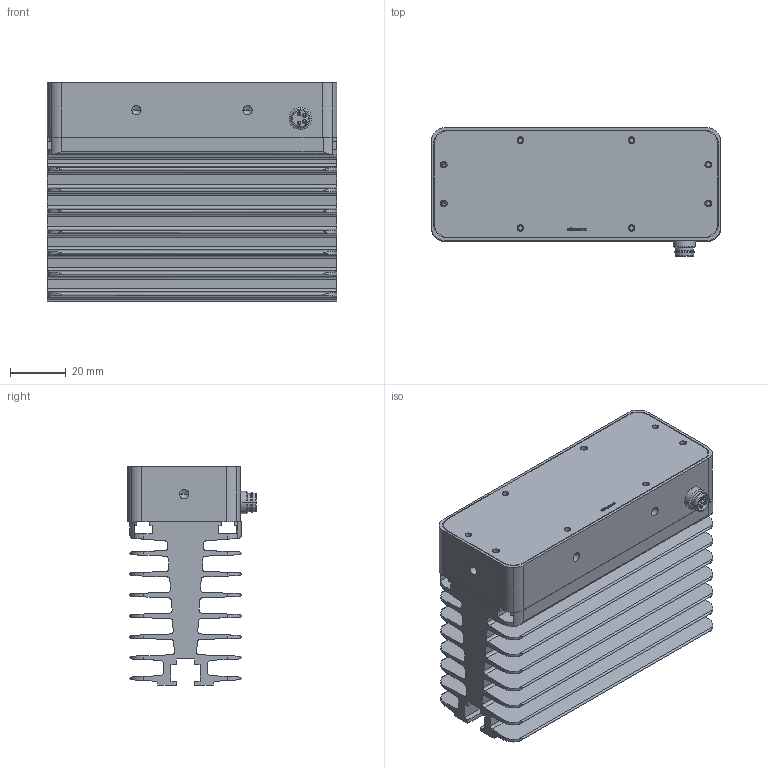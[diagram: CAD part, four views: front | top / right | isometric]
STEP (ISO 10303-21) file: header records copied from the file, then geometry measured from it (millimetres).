
FILE_DESCRIPTION(('STEP AP214'),'1');
FILE_NAME('Powerline-80 Kundenmodell mit KK.stp','2020-12-07T15:09:03',(' '),(' '),'Spatial InterOp 3D',' ',' ');
FILE_SCHEMA(('AUTOMOTIVE_DESIGN { 1 0 10303 214 1 1 1 1 }'));
Length unit declared in the file: metre
Products named in the file (1): Volumenkörper
Bounding box: 104.2 x 46.27 x 78.7 mm (x, y, z)
Volume: 172713.3 mm3; surface area: 85283.3 mm2
Topology: 1 solids, 7 shells, 626 faces, 1672 edges, 1041 vertices
Faces by surface type: cylinder 269, plane 229, cone 88, sphere 16, extrusion 16, bspline 6, torus 2
Entity records: 22087 total; most frequent: CARTESIAN_POINT 4572, DIRECTION 3264, ORIENTED_EDGE 3184, EDGE_CURVE 1592, AXIS2_PLACEMENT_3D 1167, VERTEX_POINT 1041, VECTOR 930, LINE 914
